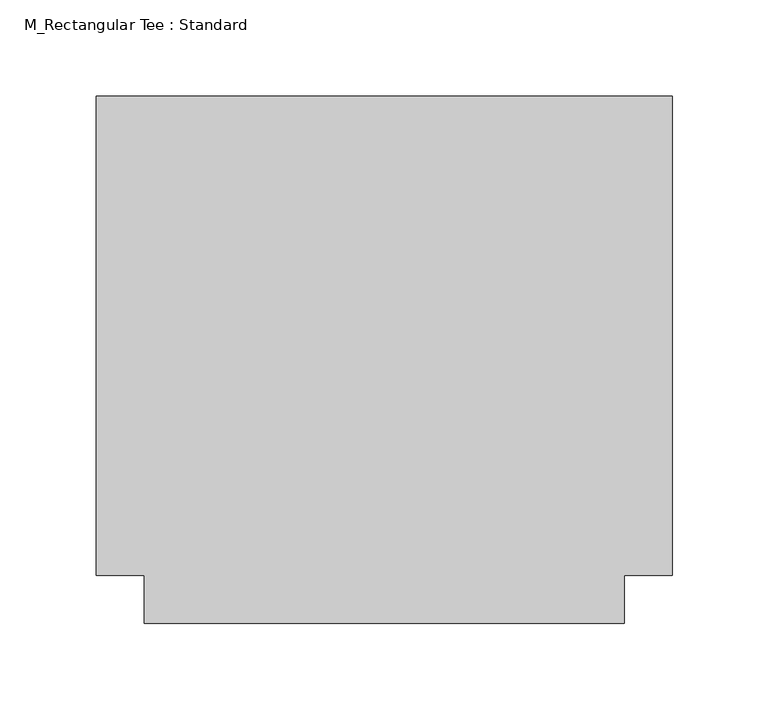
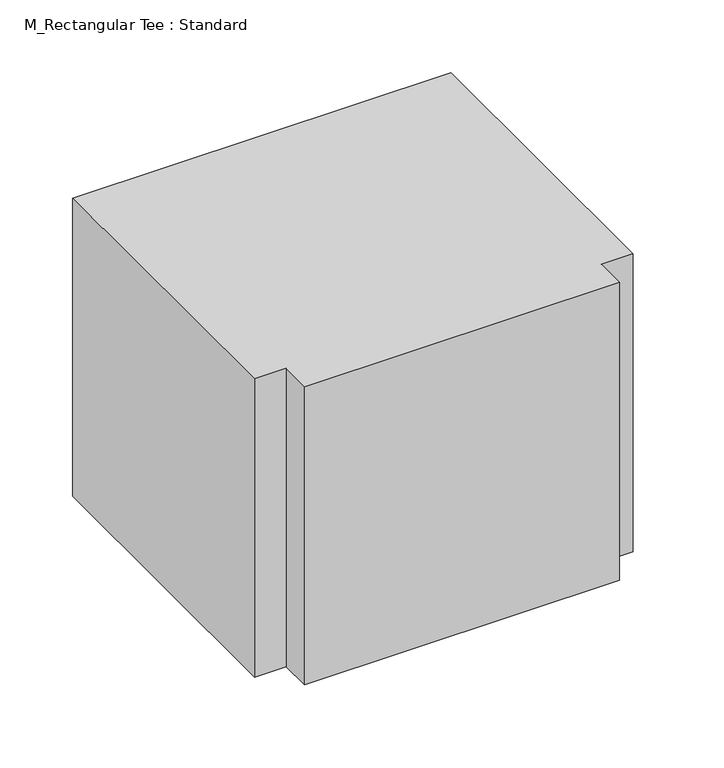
"""IFC4 building model written with IfcOpenShell, lengths in millimetres: duct fitting geometry, M_Rectangular Tee : Standard."""

from ifc_helpers import new_model, si_unit, frame, origin, place, context, project, spatial, polyline, outline, extrude, source, transform, mapped, element, save


def m_rectangular_tee_standard_d0887a4a(model_context):
    return source(origin(), model_context, "Body", "SweptSolid", [
        extrude(outline(polyline([(-150.0, -125.0), (-150.0, 125.0), (150.0, 125.0), (150.0, -125.0), (125.0, -125.0), (125.0, -150.0), (-125.0, -150.0), (-125.0, -125.0), (-150.0, -125.0)])), frame((0.0, 0.0, -125.0), z_axis=(0.0, 0.0, 1.0), x_axis=(1.0, 0.0, 0.0)), (0.0, 0.0, 1.0), 250.0),
        extrude(outline(polyline([(-150.0, 125.0), (150.0, 125.0), (150.0, -125.0), (125.0, -125.0), (125.0, -150.0), (-125.0, -150.0), (-125.0, -125.0), (-150.0, -125.0), (-150.0, 125.0)])), frame((0.0, 0.0, -125.0), z_axis=(0.0, 0.0, 1.0), x_axis=(1.0, 0.0, 0.0)), (0.0, 0.0, 1.0), 250.0),
        extrude(outline(polyline([(-150.0, -125.0), (-150.0, 125.0), (150.0, 125.0), (150.0, -125.0), (125.0, -125.0), (125.0, -150.0), (-125.0, -150.0), (-125.0, -125.0), (-150.0, -125.0)])), frame((0.0, 0.0, -125.0), z_axis=(0.0, 0.0, 1.0), x_axis=(1.0, 0.0, 0.0)), (0.0, 0.0, 1.0), 250.0),
    ])


if __name__ == "__main__":
    model = new_model("IFC4")
    model_context = context("Model", 3, world=origin())
    ifc_project = project(units=[si_unit("LENGTHUNIT", "METRE", prefix="MILLI")], contexts=[model_context])
    site = spatial("IfcSite", under=ifc_project)
    building = spatial("IfcBuilding", under=site)
    placement = place(None, origin())
    m_rectangular_tee_standard_shape = m_rectangular_tee_standard_d0887a4a(model_context)
    element("IfcDuctFitting", 1, ObjectType="M_Rectangular Tee : Standard", at=placement, inside=building, context=model_context, shape_type="MappedRepresentation", body=[
        mapped(m_rectangular_tee_standard_shape, transform((0.0, 0.0, 0.0), x_axis=(1.0, 0.0, 0.0), y_axis=(0.0, 1.0, 0.0), z_axis=(0.0, 0.0, 1.0))),
    ])
    save(model, "model.ifc")
